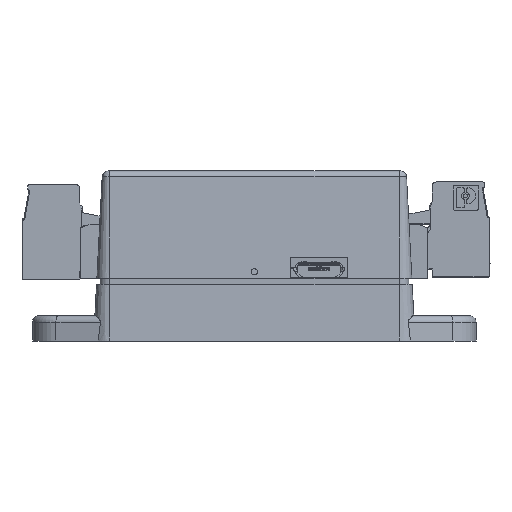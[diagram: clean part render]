
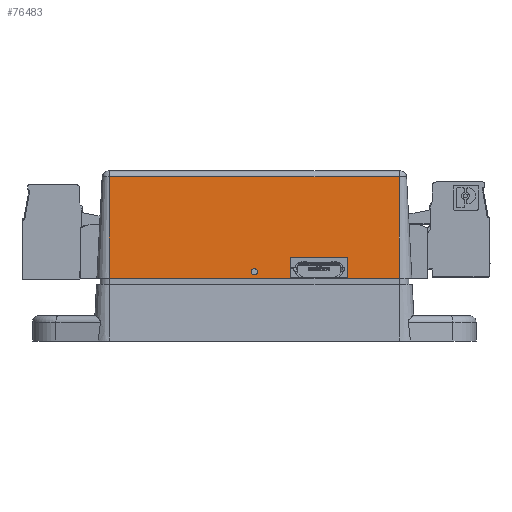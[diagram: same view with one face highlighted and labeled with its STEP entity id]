
A CAD part, front view. The second image highlights one B-rep face of the part: STEP entity #76483.
In plain terms, the highlighted planar face has unit normal (0, -0.999, 0.052).
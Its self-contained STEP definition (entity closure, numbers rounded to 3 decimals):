
#4619=FACE_BOUND('',#11249,.T.);
#4620=FACE_BOUND('',#11250,.T.);
#5138=CIRCLE('',#81113,0.02);
#7035=FACE_OUTER_BOUND('',#11248,.T.);
#11248=EDGE_LOOP('',(#52135,#52136,#52137,#52138));
#11249=EDGE_LOOP('',(#52139,#52140,#52141,#52142));
#11250=EDGE_LOOP('',(#52143));
#15856=LINE('',#109018,#24693);
#15860=LINE('',#109026,#24697);
#15863=LINE('',#109032,#24700);
#15866=LINE('',#109037,#24703);
#15971=LINE('',#109289,#24808);
#16016=LINE('',#109514,#24853);
#16022=LINE('',#109541,#24859);
#16023=LINE('',#109543,#24860);
#24693=VECTOR('',#87589,0.394);
#24697=VECTOR('',#87595,0.394);
#24700=VECTOR('',#87600,0.394);
#24703=VECTOR('',#87605,0.394);
#24808=VECTOR('',#87824,39.37);
#24853=VECTOR('',#87933,39.37);
#24859=VECTOR('',#87955,39.37);
#24860=VECTOR('',#87958,39.37);
#33522=VERTEX_POINT('',#109016);
#33523=VERTEX_POINT('',#109017);
#33526=VERTEX_POINT('',#109025);
#33528=VERTEX_POINT('',#109031);
#33618=VERTEX_POINT('',#109286);
#33619=VERTEX_POINT('',#109288);
#33663=VERTEX_POINT('',#109508);
#33664=VERTEX_POINT('',#109512);
#33669=VERTEX_POINT('',#109544);
#40599=EDGE_CURVE('',#33522,#33523,#15856,.T.);
#40603=EDGE_CURVE('',#33523,#33526,#15860,.T.);
#40606=EDGE_CURVE('',#33526,#33528,#15863,.T.);
#40609=EDGE_CURVE('',#33528,#33522,#15866,.T.);
#40733=EDGE_CURVE('',#33619,#33618,#15971,.T.);
#40798=EDGE_CURVE('',#33664,#33663,#16016,.T.);
#40808=EDGE_CURVE('',#33663,#33618,#16022,.T.);
#40809=EDGE_CURVE('',#33664,#33619,#16023,.T.);
#40810=EDGE_CURVE('',#33669,#33669,#5138,.T.);
#52135=ORIENTED_EDGE('',*,*,#40808,.F.);
#52136=ORIENTED_EDGE('',*,*,#40798,.F.);
#52137=ORIENTED_EDGE('',*,*,#40809,.T.);
#52138=ORIENTED_EDGE('',*,*,#40733,.T.);
#52139=ORIENTED_EDGE('',*,*,#40606,.T.);
#52140=ORIENTED_EDGE('',*,*,#40609,.T.);
#52141=ORIENTED_EDGE('',*,*,#40599,.T.);
#52142=ORIENTED_EDGE('',*,*,#40603,.T.);
#52143=ORIENTED_EDGE('',*,*,#40810,.T.);
#73127=PLANE('',#81112);
#76483=ADVANCED_FACE('',(#7035,#4619,#4620),#73127,.T.);
#81112=AXIS2_PLACEMENT_3D('',#109542,#87956,#87957);
#81113=AXIS2_PLACEMENT_3D('',#109545,#87959,#87960);
#87589=DIRECTION('',(1.,0.,0.));
#87595=DIRECTION('',(0.,-0.052,-0.999));
#87600=DIRECTION('',(-1.,0.,0.));
#87605=DIRECTION('',(0.,0.052,0.999));
#87824=DIRECTION('',(1.,0.,0.));
#87933=DIRECTION('',(1.,0.,0.));
#87955=DIRECTION('',(0.,-0.052,-0.999));
#87956=DIRECTION('center_axis',(0.,-0.999,
0.052));
#87957=DIRECTION('ref_axis',(0.,-0.052,
-0.999));
#87958=DIRECTION('',(0.,-0.052,-0.999));
#87959=DIRECTION('center_axis',(0.,0.999,
-0.052));
#87960=DIRECTION('ref_axis',(0.,0.052,0.999));
#109016=CARTESIAN_POINT('',(1.098,1.358,0.221));
#109017=CARTESIAN_POINT('',(1.46,1.358,0.221));
#109018=CARTESIAN_POINT('',(0.495,1.358,0.221));
#109025=CARTESIAN_POINT('',(1.46,1.351,0.096));
#109026=CARTESIAN_POINT('',(1.46,1.353,0.121));
#109031=CARTESIAN_POINT('',(1.098,1.351,0.096));
#109032=CARTESIAN_POINT('',(0.675,1.351,0.096));
#109037=CARTESIAN_POINT('',(1.098,1.349,0.058));
#109286=CARTESIAN_POINT('',(1.78,1.351,0.091));
#109288=CARTESIAN_POINT('',(-0.031,1.351,0.091));
#109289=CARTESIAN_POINT('',(-0.109,1.351,0.091));
#109508=CARTESIAN_POINT('',(1.78,1.384,0.723));
#109512=CARTESIAN_POINT('',(-0.031,1.384,0.723));
#109514=CARTESIAN_POINT('',(1.78,1.384,0.723));
#109541=CARTESIAN_POINT('',(1.78,-1028.255,-19645.972));
#109542=CARTESIAN_POINT('Origin',(-0.109,1.351,0.091));
#109543=CARTESIAN_POINT('',(-0.031,1.351,0.091));
#109544=CARTESIAN_POINT('',(0.875,1.352,0.111));
#109545=CARTESIAN_POINT('Origin',(0.875,1.353,0.13));
